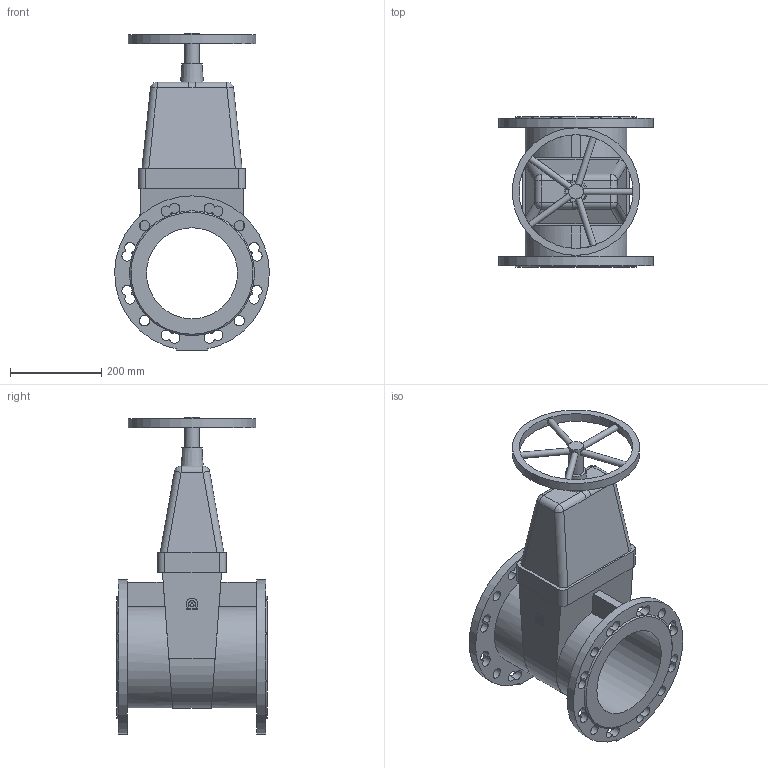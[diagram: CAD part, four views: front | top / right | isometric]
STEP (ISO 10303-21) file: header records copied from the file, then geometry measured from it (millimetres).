
FILE_DESCRIPTION(('STEP AP203'), '1');
FILE_NAME('Çàäâèæêà 47GV DN200 PN10_PN16_L330 ñ ìàõîâèêîì', '', ('UNSPECIFIED'), ('UNSPECIFIED'), 'ASCON STEP Converter 1.6', 'ASCON Math Kernel', '');
FILE_SCHEMA(('CONFIG_CONTROL_DESIGN'));
Length unit declared in the file: millimetre
Bounding box: 339.95 x 330 x 697 mm (x, y, z)
Volume: 13424203.7 mm3; surface area: 1013310.6 mm2
Topology: 1 solids, 1 shells, 162 faces, 486 edges, 307 vertices
Faces by surface type: plane 77, cylinder 76, bspline 6, cone 3
Full cylindrical faces by diameter (mm): 14 x5, 23 x8, 32 x1, 200 x1, 250 x1, 280 x1
Entity records: 9965 total; most frequent: CARTESIAN_POINT 4204, DIRECTION 962, ORIENTED_EDGE 912, EDGE_CURVE 456, AXIS2_PLACEMENT_3D 403, VERTEX_POINT 304, CIRCLE 246, EDGE_LOOP 230
